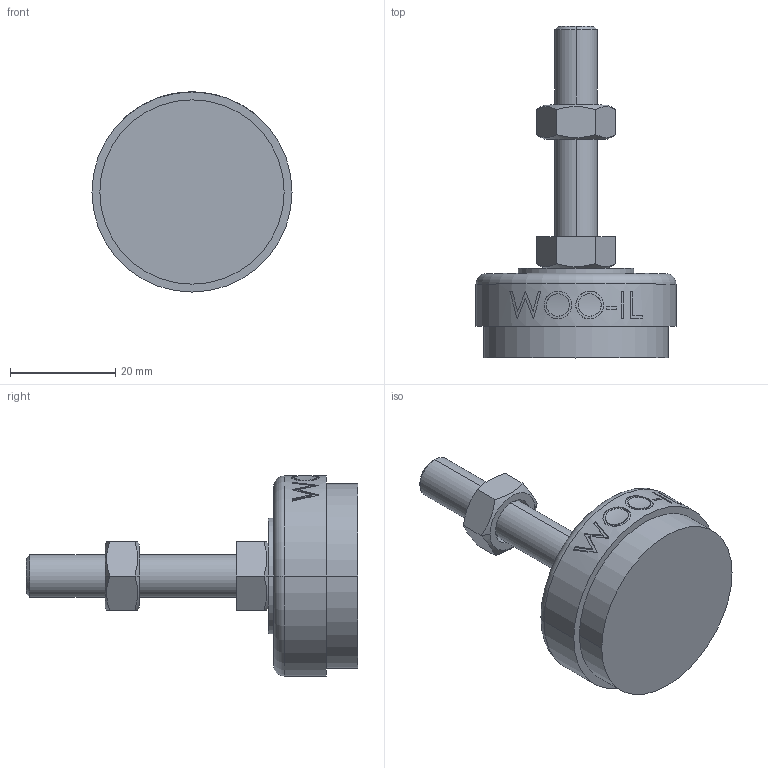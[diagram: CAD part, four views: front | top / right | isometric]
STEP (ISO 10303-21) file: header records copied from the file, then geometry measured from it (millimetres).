
FILE_DESCRIPTION (( 'STEP AP214' ), '1' );
FILE_NAME ('NS38-M8-40.STEP', '2021-03-29T00:33:46', ( '' ), ( '' ), 'SwSTEP 2.0', 'SolidWorks 2019', '' );
FILE_SCHEMA (( 'AUTOMOTIVE_DESIGN' ));
Length unit declared in the file: millimetre
Products named in the file (1): NS38-M8-40
Bounding box: 38 x 63 x 38 mm (x, y, z)
Volume: 20861.9 mm3; surface area: 6253.1 mm2
Topology: 3 solids, 3 shells, 96 faces, 223 edges, 144 vertices
Faces by surface type: plane 48, cylinder 18, bspline 16, cone 12, torus 2
Entity records: 4189 total; most frequent: CARTESIAN_POINT 2078, ORIENTED_EDGE 446, DIRECTION 379, EDGE_CURVE 223, VERTEX_POINT 144, AXIS2_PLACEMENT_3D 141, EDGE_LOOP 109, LINE 97
